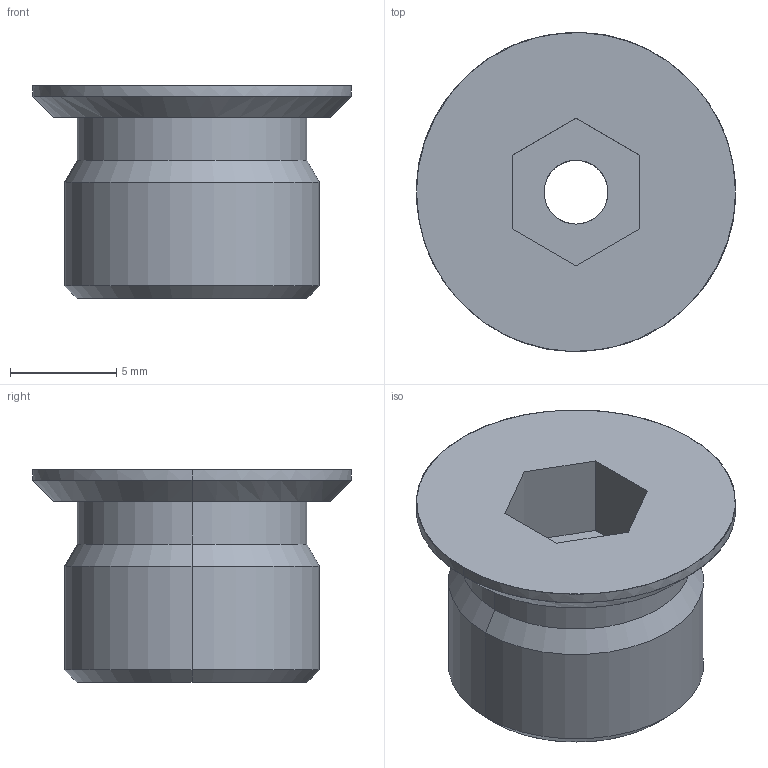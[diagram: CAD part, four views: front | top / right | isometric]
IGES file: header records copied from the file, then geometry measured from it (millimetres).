
Global section: file name: E:\UnigraphicsGraphicData\MISUMI_PRESS-PARTS\IGES\3d_mswzsh12-10_00500_r00.igs; native system: NX V5.0; preprocessor: UGS NX IGES V5.0; author: MISUMI; date: 20110105.161531; units: millimetre
Bounding box: 15 x 15 x 10 mm (x, y, z)
Surface area: 846.2 mm2 (no closed solid volume)
Topology: 0 solids, 0 shells, 24 faces, 140 edges, 140 vertices
Faces by surface type: bspline 24
